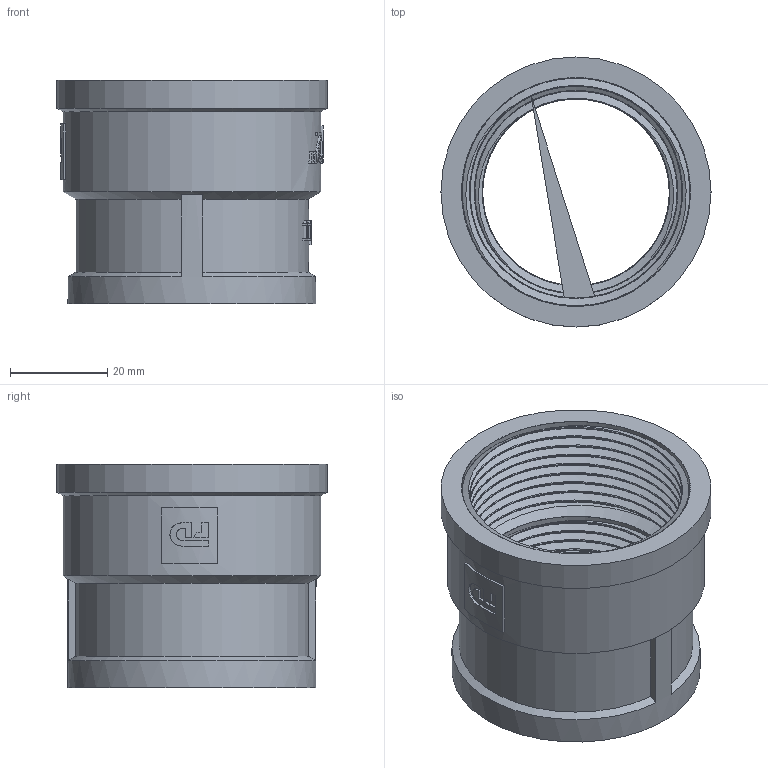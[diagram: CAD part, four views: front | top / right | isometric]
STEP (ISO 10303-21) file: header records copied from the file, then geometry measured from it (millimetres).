
FILE_DESCRIPTION(/* description */ (''),/* implementation_level */ '2;1');
FILE_NAME(/* name */ 'C:\Users\Doom\Desktop\Фадотех\Резьба\M16 17.03.2020\M16 17.03.2020.stp',/* time_stamp */ '2022-01-05T23:26:34+02:00',/* author */ ('Doom'),/* organization */ (''),/* preprocessor_version */ 'ST-DEVELOPER v18',/* originating_system */ 'Autodesk Inventor 2020',/* authorisation */ '');
FILE_SCHEMA (('AUTOMOTIVE_DESIGN { 1 0 10303 214 3 1 1 }'));
Length unit declared in the file: millimetre
Products named in the file (1): M16 17.03.2020
Bounding box: 55.5 x 55.5 x 46 mm (x, y, z)
Volume: 35794.7 mm3; surface area: 34561 mm2
Topology: 3 solids, 3 shells, 197 faces, 534 edges, 355 vertices
Faces by surface type: plane 112, cylinder 49, bspline 31, cone 5
Full cylindrical faces by diameter (mm): 38.376 x11, 41.8 x2, 43.576 x9, 47 x2, 51 x1, 53 x1, 55.5 x1
Entity records: 17537 total; most frequent: CARTESIAN_POINT 12714, ORIENTED_EDGE 1052, DIRECTION 909, EDGE_CURVE 526, VERTEX_POINT 351, AXIS2_PLACEMENT_3D 338, LINE 233, VECTOR 233
